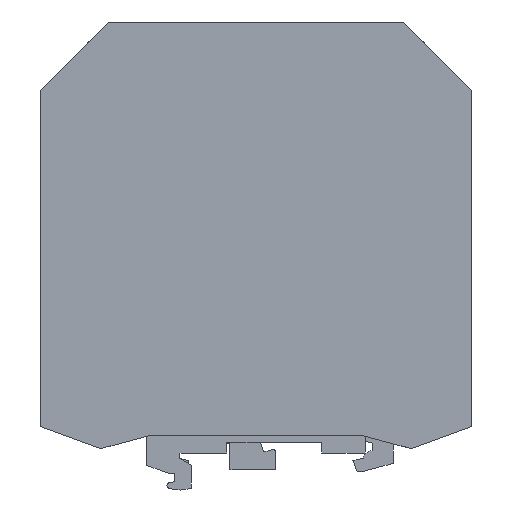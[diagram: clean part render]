
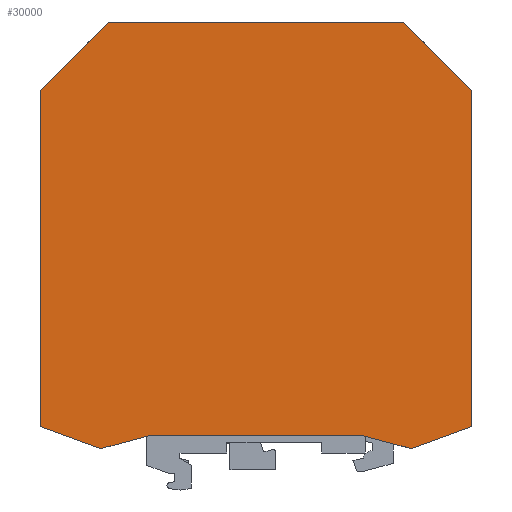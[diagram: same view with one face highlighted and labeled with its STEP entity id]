
A CAD part, left-side view. The second image highlights one B-rep face of the part: STEP entity #30000.
In plain terms, the highlighted planar face has unit normal (-1, 0, 0).
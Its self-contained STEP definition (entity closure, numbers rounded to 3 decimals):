
#21390=CARTESIAN_POINT('',(0.,62.081,10.4));
#21400=VERTEX_POINT('',#21390);
#21450=CARTESIAN_POINT('',(0.,-7.223,10.4));
#21460=DIRECTION('',(0.,-1.,0.));
#21470=VECTOR('',#21460,1.);
#21480=LINE('',#21450,#21470);
#21490=CARTESIAN_POINT('',(0.,20.769,10.4));
#21500=VERTEX_POINT('',#21490);
#21510=EDGE_CURVE('',#21400,#21500,#21480,.T.);
#28820=CARTESIAN_POINT('',(0.,71.225,7.95));
#28830=VERTEX_POINT('',#28820);
#28860=CARTESIAN_POINT('',(0.,-7.223,28.97));
#28870=DIRECTION('',(0.,-0.966,0.259));
#28880=VECTOR('',#28870,1.);
#28890=LINE('',#28860,#28880);
#28900=EDGE_CURVE('',#28830,#21400,#28890,.T.);
#29150=CARTESIAN_POINT('',(0.,-7.223,2.9));
#29160=DIRECTION('',(0.,-0.966,-0.259));
#29170=VECTOR('',#29160,1.);
#29180=LINE('',#29150,#29170);
#29190=CARTESIAN_POINT('',(0.,11.625,7.95));
#29200=VERTEX_POINT('',#29190);
#29210=EDGE_CURVE('',#21500,#29200,#29180,.T.);
#29360=CARTESIAN_POINT('',(0.,73.164,24.781));
#29370=DIRECTION('',(1.,0.,0.));
#29380=DIRECTION('',(0.,1.,0.));
#29390=AXIS2_PLACEMENT_3D('',#29360,#29370,#29380);
#29400=PLANE('',#29390);
#29410=CARTESIAN_POINT('',(0.,0.,0.869));
#29420=DIRECTION('',(0.,0.,-1.));
#29430=VECTOR('',#29420,1.);
#29440=LINE('',#29410,#29430);
#29450=CARTESIAN_POINT('',(0.,0.,76.725));
#29460=VERTEX_POINT('',#29450);
#29470=CARTESIAN_POINT('',(0.,0.,12.181));
#29480=VERTEX_POINT('',#29470);
#29490=EDGE_CURVE('',#29460,#29480,#29440,.T.);
#29500=ORIENTED_EDGE('',*,*,#29490,.F.);
#29510=CARTESIAN_POINT('',(0.,-7.223,14.81));
#29520=DIRECTION('',(0.,0.94,-0.342));
#29530=VECTOR('',#29520,1.);
#29540=LINE('',#29510,#29530);
#29550=EDGE_CURVE('',#29480,#29200,#29540,.T.);
#29560=ORIENTED_EDGE('',*,*,#29550,.F.);
#29570=ORIENTED_EDGE('',*,*,#29210,.T.);
#29580=ORIENTED_EDGE('',*,*,#21510,.T.);
#29590=ORIENTED_EDGE('',*,*,#28900,.T.);
#29600=CARTESIAN_POINT('',(0.,-7.223,-20.603));
#29610=DIRECTION('',(0.,0.94,0.342));
#29620=VECTOR('',#29610,1.);
#29630=LINE('',#29600,#29620);
#29640=CARTESIAN_POINT('',(0.,82.85,12.181));
#29650=VERTEX_POINT('',#29640);
#29660=EDGE_CURVE('',#28830,#29650,#29630,.T.);
#29670=ORIENTED_EDGE('',*,*,#29660,.F.);
#29680=CARTESIAN_POINT('',(0.,82.85,0.869));
#29690=DIRECTION('',(0.,0.,1.));
#29700=VECTOR('',#29690,1.);
#29710=LINE('',#29680,#29700);
#29720=CARTESIAN_POINT('',(0.,82.85,76.725));
#29730=VERTEX_POINT('',#29720);
#29740=EDGE_CURVE('',#29650,#29730,#29710,.T.);
#29750=ORIENTED_EDGE('',*,*,#29740,.F.);
#29760=CARTESIAN_POINT('',(0.,-7.223,166.798));
#29770=DIRECTION('',(0.,-0.707,0.707));
#29780=VECTOR('',#29770,1.);
#29790=LINE('',#29760,#29780);
#29800=CARTESIAN_POINT('',(0.,69.675,89.9));
#29810=VERTEX_POINT('',#29800);
#29820=EDGE_CURVE('',#29730,#29810,#29790,.T.);
#29830=ORIENTED_EDGE('',*,*,#29820,.F.);
#29840=CARTESIAN_POINT('',(0.,-7.223,89.9));
#29850=DIRECTION('',(0.,-1.,0.));
#29860=VECTOR('',#29850,1.);
#29870=LINE('',#29840,#29860);
#29880=CARTESIAN_POINT('',(0.,13.175,89.9));
#29890=VERTEX_POINT('',#29880);
#29900=EDGE_CURVE('',#29810,#29890,#29870,.T.);
#29910=ORIENTED_EDGE('',*,*,#29900,.F.);
#29920=CARTESIAN_POINT('',(0.,-7.223,69.502));
#29930=DIRECTION('',(0.,-0.707,-0.707));
#29940=VECTOR('',#29930,1.);
#29950=LINE('',#29920,#29940);
#29960=EDGE_CURVE('',#29890,#29460,#29950,.T.);
#29970=ORIENTED_EDGE('',*,*,#29960,.F.);
#29980=EDGE_LOOP('',(#29970,#29910,#29830,#29750,#29670,#29590,#29580,
#29570,#29560,#29500));
#29990=FACE_OUTER_BOUND('',#29980,.T.);
#30000=ADVANCED_FACE('',(#29990),#29400,.F.);
